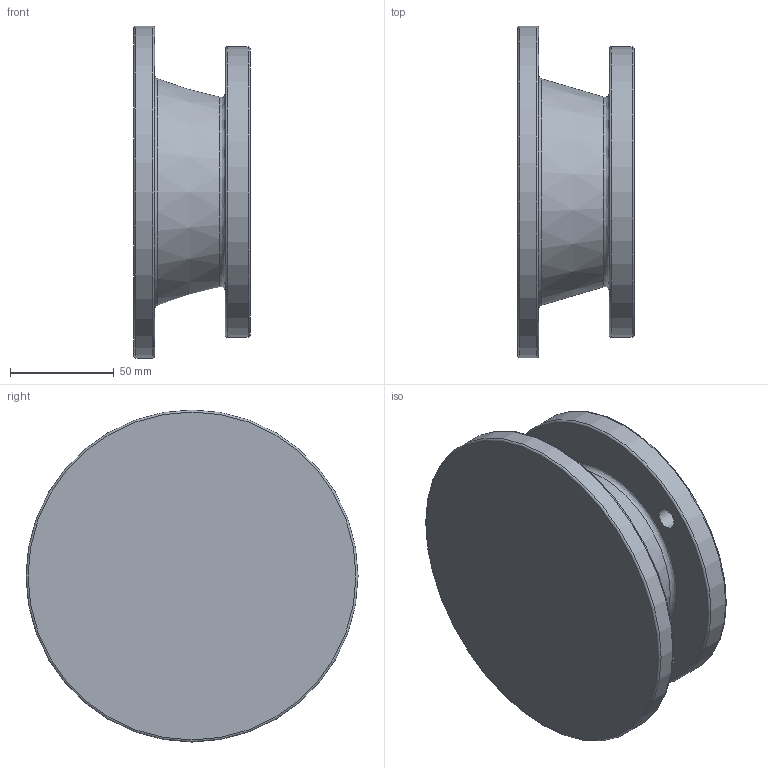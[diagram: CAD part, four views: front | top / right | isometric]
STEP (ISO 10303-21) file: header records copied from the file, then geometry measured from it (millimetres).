
FILE_DESCRIPTION((''),'2;1');
FILE_NAME('D:\PAWEŁ\ZLECENIA\2011 DualSystem\Przekładnie DR\DR50\STEP\63_B5_L56.stp','2012-06-11T12:05:28',('admin'),(''),'Autodesk Inventor 2009','Autodesk Inventor 2009','');
FILE_SCHEMA(('AUTOMOTIVE_DESIGN { 1 0 10303 214 1 1 1 1 }'));
Length unit declared in the file: millimetre
Products named in the file (1): 63_B5_L56
Bounding box: 56 x 160 x 160 mm (x, y, z)
Volume: 372340.4 mm3; surface area: 95638.8 mm2
Topology: 1 solids, 1 shells, 31 faces, 60 edges, 37 vertices
Faces by surface type: plane 12, cylinder 6, bspline 6, torus 5, cone 2
Full cylindrical faces by diameter (mm): 25 x1, 90 x1, 140 x1, 160 x1
Entity records: 924 total; most frequent: CARTESIAN_POINT 286, DIRECTION 126, ORIENTED_EDGE 86, EDGE_LOOP 62, AXIS2_PLACEMENT_3D 57, EDGE_CURVE 43, VERTEX_POINT 37, FACE_OUTER_BOUND 31
